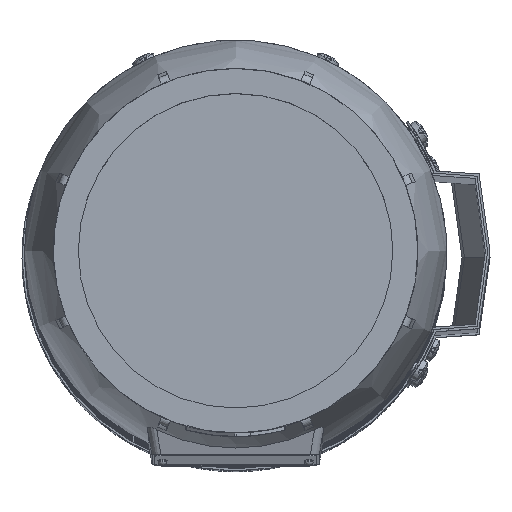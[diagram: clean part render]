
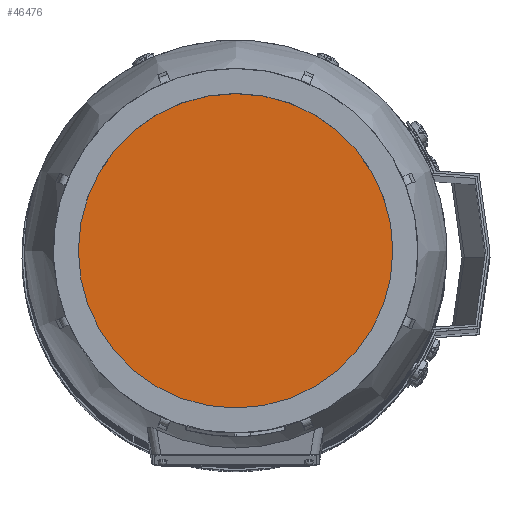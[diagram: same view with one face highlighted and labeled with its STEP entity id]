
A CAD part, top view. The second image highlights one B-rep face of the part: STEP entity #46476.
In plain terms, the highlighted planar face has unit normal (0, 0, 1) as drawn and (0, 1, 0) by its records, which use the part's own axes.
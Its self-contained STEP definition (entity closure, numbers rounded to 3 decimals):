
#9809=ORIENTED_EDGE('',*,*,#23865,.F.);
#23865=EDGE_CURVE('',#30893,#30893,#35623,.T.);
#30893=VERTEX_POINT('',#67096);
#35623=CIRCLE('',#49015,67.736);
#37746=EDGE_LOOP('',(#9809));
#41100=FACE_BOUND('',#37746,.T.);
#44472=PLANE('',#49014);
#46476=ADVANCED_FACE('',(#41100),#44472,.F.);
#49014=AXIS2_PLACEMENT_3D('',#67094,#53609,#53610);
#49015=AXIS2_PLACEMENT_3D('',#67095,#53611,#53612);
#53609=DIRECTION('',(0.,-1.,0.));
#53610=DIRECTION('',(0.,0.,-1.));
#53611=DIRECTION('',(0.,-1.,0.));
#53612=DIRECTION('',(0.,0.,-1.));
#67094=CARTESIAN_POINT('',(0.,154.,0.));
#67095=CARTESIAN_POINT('',(0.,154.,0.));
#67096=CARTESIAN_POINT('',(0.,154.,-67.736));
